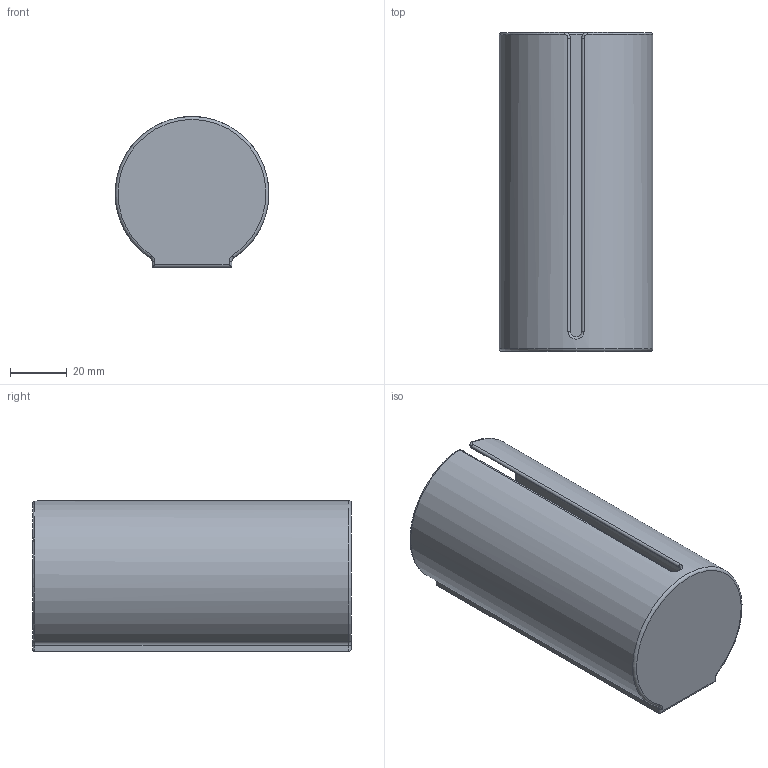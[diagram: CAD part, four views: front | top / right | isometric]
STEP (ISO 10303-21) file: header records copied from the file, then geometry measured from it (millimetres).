
FILE_DESCRIPTION(('Open CASCADE Model'),'2;1');
FILE_NAME('Open CASCADE Shape Model','2026-03-29T15:01:58',('Author'),( 'Open CASCADE'),'Open CASCADE STEP processor 7.9','Open CASCADE 7.9' ,'Unknown');
FILE_SCHEMA(('AUTOMOTIVE_DESIGN { 1 0 10303 214 1 1 1 1 }'));
Length unit declared in the file: millimetre
Products named in the file (1): COMPOUND
Bounding box: 53.98 x 112 x 53 mm (x, y, z)
Volume: 31759.3 mm3; surface area: 41874.2 mm2
Topology: 1 solids, 1 shells, 158 faces, 389 edges, 236 vertices
Faces by surface type: plane 109, cylinder 25, torus 12, bspline 10, revolution 2
Entity records: 11049 total; most frequent: CARTESIAN_POINT 3310, DIRECTION 1412, LINE 965, VECTOR 965, ORIENTED_EDGE 778, PCURVE 778, DEFINITIONAL_REPRESENTATION 778, EDGE_CURVE 389
